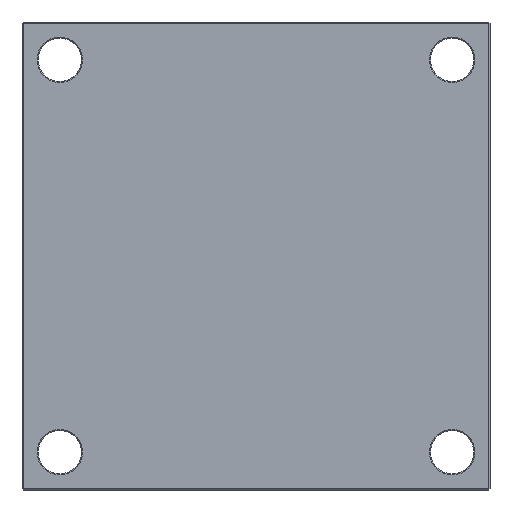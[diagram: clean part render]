
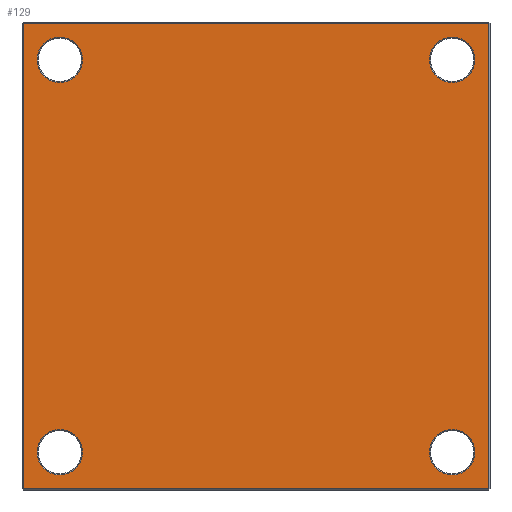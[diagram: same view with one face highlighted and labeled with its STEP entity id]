
A CAD part, front view. The second image highlights one B-rep face of the part: STEP entity #129.
In plain terms, the highlighted planar face has unit normal (0, -1, 0).
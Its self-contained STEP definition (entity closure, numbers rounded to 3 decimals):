
#37 = FACE_OUTER_BOUND ( 'NONE', #236, .T. ) ;
#74 = CARTESIAN_POINT ( 'NONE',  ( 187., 0., -165.35 ) ) ;
#98 = FACE_BOUND ( 'NONE', #1856, .T. ) ;
#102 = DIRECTION ( 'NONE',  ( 1., 0., 0. ) ) ;
#120 = DIRECTION ( 'NONE',  ( 0., 1., 0. ) ) ;
#129 = ADVANCED_FACE ( 'NONE', ( #1411, #543, #98, #971, #37 ), #1278, .F. ) ;
#143 = ORIENTED_EDGE ( 'NONE', *, *, #677, .T. ) ;
#173 = DIRECTION ( 'NONE',  ( 0., 1., 0. ) ) ;
#187 = CIRCLE ( 'NONE', #2056, 21.65 ) ;
#232 = VERTEX_POINT ( 'NONE', #833 ) ;
#235 = VERTEX_POINT ( 'NONE', #783 ) ;
#236 = EDGE_LOOP ( 'NONE', ( #1574, #1593, #394, #2128 ) ) ;
#279 = DIRECTION ( 'NONE',  ( 0., 0., 1. ) ) ;
#294 = VECTOR ( 'NONE', #102, 1000. ) ;
#340 = EDGE_CURVE ( 'NONE', #1173, #1654, #823, .T. ) ;
#341 = EDGE_CURVE ( 'NONE', #1792, #1173, #775, .T. ) ;
#345 = EDGE_CURVE ( 'NONE', #398, #1792, #1671, .T. ) ;
#348 = EDGE_CURVE ( 'NONE', #1654, #398, #1931, .T. ) ;
#349 = EDGE_CURVE ( 'NONE', #658, #232, #1986, .T. ) ;
#353 = EDGE_CURVE ( 'NONE', #235, #633, #1523, .T. ) ;
#356 = EDGE_CURVE ( 'NONE', #426, #1646, #1104, .T. ) ;
#358 = EDGE_CURVE ( 'NONE', #986, #1342, #187, .T. ) ;
#375 = CARTESIAN_POINT ( 'NONE',  ( -187., 0., -187. ) ) ;
#394 = ORIENTED_EDGE ( 'NONE', *, *, #341, .T. ) ;
#398 = VERTEX_POINT ( 'NONE', #1382 ) ;
#426 = VERTEX_POINT ( 'NONE', #74 ) ;
#444 = DIRECTION ( 'NONE',  ( 0., 1., 0. ) ) ;
#453 = DIRECTION ( 'NONE',  ( 0., 1., 0. ) ) ;
#454 = CARTESIAN_POINT ( 'NONE',  ( -222., 0., 0. ) ) ;
#477 = CARTESIAN_POINT ( 'NONE',  ( -222., 0., 222. ) ) ;
#478 = DIRECTION ( 'NONE',  ( 0., 0., 1. ) ) ;
#515 = CIRCLE ( 'NONE', #1008, 21.65 ) ;
#543 = FACE_BOUND ( 'NONE', #1705, .T. ) ;
#548 = DIRECTION ( 'NONE',  ( 0., 0., 1. ) ) ;
#557 = EDGE_LOOP ( 'NONE', ( #1174, #730 ) ) ;
#559 = DIRECTION ( 'NONE',  ( 0., 1., 0. ) ) ;
#569 = CARTESIAN_POINT ( 'NONE',  ( -187., 0., 187. ) ) ;
#588 = DIRECTION ( 'NONE',  ( 0., 0., 1. ) ) ;
#608 = CARTESIAN_POINT ( 'NONE',  ( 0., 0., 0. ) ) ;
#633 = VERTEX_POINT ( 'NONE', #1347 ) ;
#658 = VERTEX_POINT ( 'NONE', #2139 ) ;
#667 = CARTESIAN_POINT ( 'NONE',  ( 187., 0., -187. ) ) ;
#677 = EDGE_CURVE ( 'NONE', #1342, #986, #1192, .T. ) ;
#730 = ORIENTED_EDGE ( 'NONE', *, *, #349, .T. ) ;
#736 = EDGE_CURVE ( 'NONE', #1646, #426, #1786, .T. ) ;
#739 = DIRECTION ( 'NONE',  ( 0., 1., 0. ) ) ;
#743 = CARTESIAN_POINT ( 'NONE',  ( -187., 0., -208.65 ) ) ;
#755 = DIRECTION ( 'NONE',  ( 0., 1., 0. ) ) ;
#771 = EDGE_CURVE ( 'NONE', #633, #235, #515, .T. ) ;
#775 = LINE ( 'NONE', #454, #2043 ) ;
#783 = CARTESIAN_POINT ( 'NONE',  ( 187., 0., 208.65 ) ) ;
#823 = LINE ( 'NONE', #1663, #294 ) ;
#833 = CARTESIAN_POINT ( 'NONE',  ( -187., 0., 165.35 ) ) ;
#850 = ORIENTED_EDGE ( 'NONE', *, *, #736, .T. ) ;
#857 = CARTESIAN_POINT ( 'NONE',  ( -187., 0., -187. ) ) ;
#872 = CARTESIAN_POINT ( 'NONE',  ( 222., 0., -222. ) ) ;
#882 = DIRECTION ( 'NONE',  ( 0., 0., -1. ) ) ;
#885 = CARTESIAN_POINT ( 'NONE',  ( 187., 0., -208.65 ) ) ;
#899 = DIRECTION ( 'NONE',  ( 0., 0., 1. ) ) ;
#926 = CARTESIAN_POINT ( 'NONE',  ( 187., 0., -187. ) ) ;
#971 = FACE_BOUND ( 'NONE', #557, .T. ) ;
#972 = ORIENTED_EDGE ( 'NONE', *, *, #771, .T. ) ;
#986 = VERTEX_POINT ( 'NONE', #1258 ) ;
#1005 = DIRECTION ( 'NONE',  ( 0., 1., 0. ) ) ;
#1008 = AXIS2_PLACEMENT_3D ( 'NONE', #1611, #1600, #1584 ) ;
#1015 = ORIENTED_EDGE ( 'NONE', *, *, #358, .T. ) ;
#1077 = DIRECTION ( 'NONE',  ( 0., 0., 1. ) ) ;
#1090 = AXIS2_PLACEMENT_3D ( 'NONE', #569, #559, #548 ) ;
#1091 = DIRECTION ( 'NONE',  ( 0., 0., 1. ) ) ;
#1103 = CARTESIAN_POINT ( 'NONE',  ( 222., 0., 0. ) ) ;
#1104 = CIRCLE ( 'NONE', #2074, 21.65 ) ;
#1116 = AXIS2_PLACEMENT_3D ( 'NONE', #375, #173, #1459 ) ;
#1118 = AXIS2_PLACEMENT_3D ( 'NONE', #667, #453, #478 ) ;
#1147 = AXIS2_PLACEMENT_3D ( 'NONE', #608, #444, #1091 ) ;
#1166 = VECTOR ( 'NONE', #1341, 1000. ) ;
#1173 = VERTEX_POINT ( 'NONE', #2083 ) ;
#1174 = ORIENTED_EDGE ( 'NONE', *, *, #1691, .T. ) ;
#1192 = CIRCLE ( 'NONE', #1116, 21.65 ) ;
#1258 = CARTESIAN_POINT ( 'NONE',  ( -187., 0., -165.35 ) ) ;
#1278 = PLANE ( 'NONE',  #1147 ) ;
#1341 = DIRECTION ( 'NONE',  ( -1., 0., 0. ) ) ;
#1342 = VERTEX_POINT ( 'NONE', #743 ) ;
#1344 = ORIENTED_EDGE ( 'NONE', *, *, #356, .T. ) ;
#1347 = CARTESIAN_POINT ( 'NONE',  ( 187., 0., 165.35 ) ) ;
#1382 = CARTESIAN_POINT ( 'NONE',  ( 222., 0., 222. ) ) ;
#1411 = FACE_BOUND ( 'NONE', #1820, .T. ) ;
#1457 = CARTESIAN_POINT ( 'NONE',  ( 0., 0., 222. ) ) ;
#1459 = DIRECTION ( 'NONE',  ( 0., 0., 1. ) ) ;
#1523 = CIRCLE ( 'NONE', #1973, 21.65 ) ;
#1566 = VECTOR ( 'NONE', #1077, 1000. ) ;
#1574 = ORIENTED_EDGE ( 'NONE', *, *, #348, .T. ) ;
#1584 = DIRECTION ( 'NONE',  ( 0., 0., 1. ) ) ;
#1593 = ORIENTED_EDGE ( 'NONE', *, *, #345, .T. ) ;
#1600 = DIRECTION ( 'NONE',  ( 0., 1., 0. ) ) ;
#1611 = CARTESIAN_POINT ( 'NONE',  ( 187., 0., 187. ) ) ;
#1646 = VERTEX_POINT ( 'NONE', #885 ) ;
#1651 = ORIENTED_EDGE ( 'NONE', *, *, #353, .T. ) ;
#1654 = VERTEX_POINT ( 'NONE', #872 ) ;
#1663 = CARTESIAN_POINT ( 'NONE',  ( 0., 0., -222. ) ) ;
#1671 = LINE ( 'NONE', #1457, #1166 ) ;
#1685 = CARTESIAN_POINT ( 'NONE',  ( 187., 0., 187. ) ) ;
#1691 = EDGE_CURVE ( 'NONE', #232, #658, #1738, .T. ) ;
#1705 = EDGE_LOOP ( 'NONE', ( #850, #1344 ) ) ;
#1738 = CIRCLE ( 'NONE', #1090, 21.65 ) ;
#1786 = CIRCLE ( 'NONE', #1118, 21.65 ) ;
#1792 = VERTEX_POINT ( 'NONE', #477 ) ;
#1820 = EDGE_LOOP ( 'NONE', ( #143, #1015 ) ) ;
#1856 = EDGE_LOOP ( 'NONE', ( #972, #1651 ) ) ;
#1931 = LINE ( 'NONE', #1103, #1566 ) ;
#1973 = AXIS2_PLACEMENT_3D ( 'NONE', #1685, #1005, #279 ) ;
#1977 = DIRECTION ( 'NONE',  ( 0., 0., 1. ) ) ;
#1985 = AXIS2_PLACEMENT_3D ( 'NONE', #2065, #120, #588 ) ;
#1986 = CIRCLE ( 'NONE', #1985, 21.65 ) ;
#2043 = VECTOR ( 'NONE', #882, 1000. ) ;
#2056 = AXIS2_PLACEMENT_3D ( 'NONE', #857, #739, #899 ) ;
#2065 = CARTESIAN_POINT ( 'NONE',  ( -187., 0., 187. ) ) ;
#2074 = AXIS2_PLACEMENT_3D ( 'NONE', #926, #755, #1977 ) ;
#2083 = CARTESIAN_POINT ( 'NONE',  ( -222., 0., -222. ) ) ;
#2128 = ORIENTED_EDGE ( 'NONE', *, *, #340, .T. ) ;
#2139 = CARTESIAN_POINT ( 'NONE',  ( -187., 0., 208.65 ) ) ;
